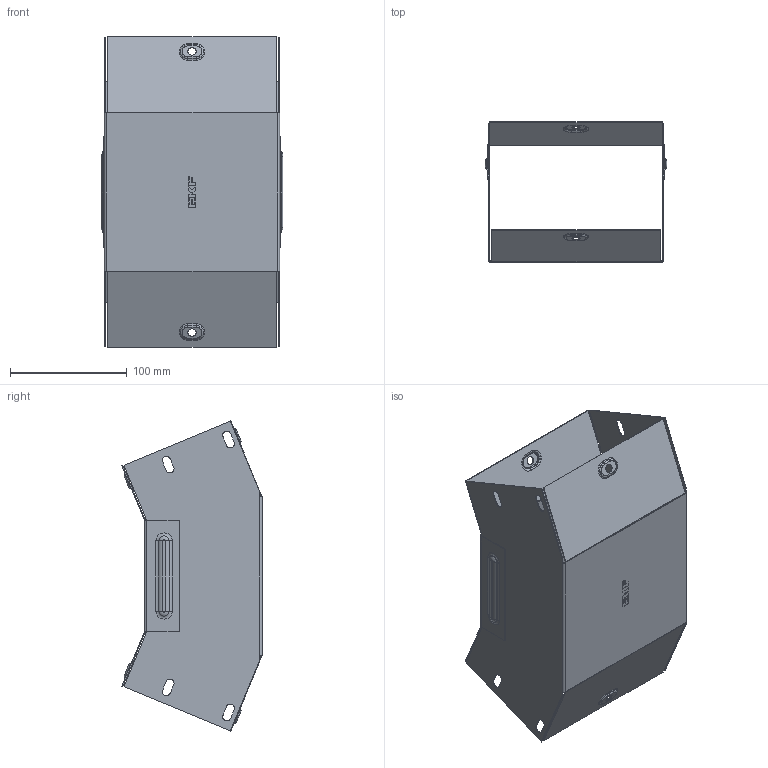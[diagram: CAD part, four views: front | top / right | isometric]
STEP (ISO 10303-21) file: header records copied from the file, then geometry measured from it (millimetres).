
FILE_DESCRIPTION (( 'STEP AP214' ), '1' );
FILE_NAME ('vi45100150_捘.STEP', '2019-06-10T08:30:34', ( '砐錪賧瘔蠈錪 Windows' ), ( '' ), 'SwSTEP 2.0', 'SolidWorks 2018', '' );
FILE_SCHEMA (( 'AUTOMOTIVE_DESIGN' ));
Length unit declared in the file: millimetre
Products named in the file (1): vi45100150_捘
Bounding box: 155.6 x 119.93 x 265.55 mm (x, y, z)
Volume: 97097.3 mm3; surface area: 245020.6 mm2
Topology: 2 solids, 2 shells, 436 faces, 1116 edges, 712 vertices
Faces by surface type: plane 230, cylinder 124, torus 64, bspline 18
Entity records: 14120 total; most frequent: CARTESIAN_POINT 3284, DIRECTION 2262, ORIENTED_EDGE 2232, EDGE_CURVE 1116, AXIS2_PLACEMENT_3D 763, VECTOR 736, LINE 736, VERTEX_POINT 712
